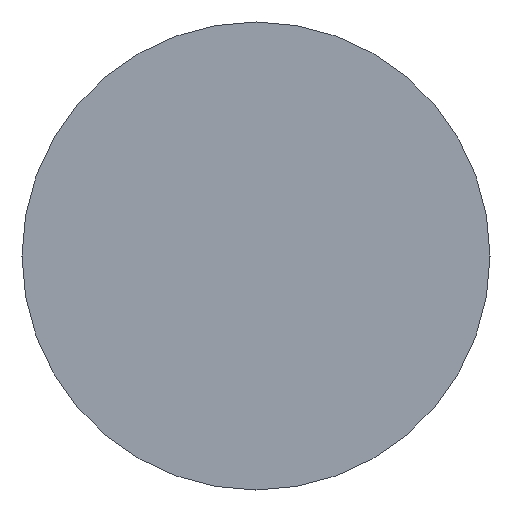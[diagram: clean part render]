
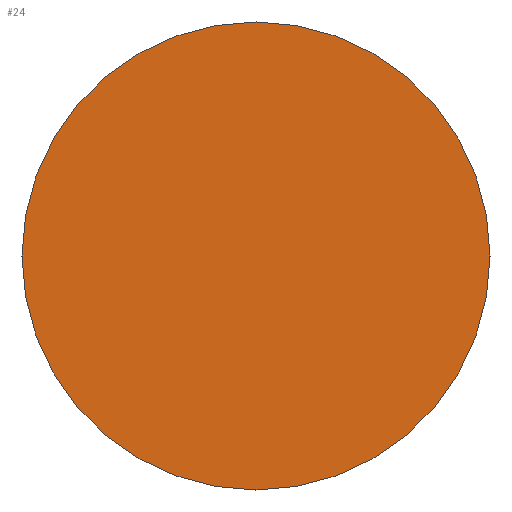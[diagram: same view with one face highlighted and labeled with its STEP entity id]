
A CAD part, left-side view. The second image highlights one B-rep face of the part: STEP entity #24.
In plain terms, the highlighted planar face has unit normal (-1, 0, 0).
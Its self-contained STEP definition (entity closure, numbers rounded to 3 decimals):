
#7 = DIRECTION ( 'NONE',  ( -1., 0., 0. ) ) ;
#24 = ADVANCED_FACE ( 'NONE', ( #116 ), #80, .F. ) ;
#73 = VERTEX_POINT ( 'NONE', #361 ) ;
#76 = DIRECTION ( 'NONE',  ( 0., 0., -1. ) ) ;
#80 = PLANE ( 'NONE',  #135 ) ;
#107 = AXIS2_PLACEMENT_3D ( 'NONE', #365, #253, #374 ) ;
#110 = CARTESIAN_POINT ( 'NONE',  ( -55., 3., 0. ) ) ;
#116 = FACE_OUTER_BOUND ( 'NONE', #157, .T. ) ;
#135 = AXIS2_PLACEMENT_3D ( 'NONE', #110, #312, #76 ) ;
#157 = EDGE_LOOP ( 'NONE', ( #161, #187 ) ) ;
#161 = ORIENTED_EDGE ( 'NONE', *, *, #387, .T. ) ;
#184 = DIRECTION ( 'NONE',  ( 0., 0., 1. ) ) ;
#187 = ORIENTED_EDGE ( 'NONE', *, *, #305, .T. ) ;
#209 = CIRCLE ( 'NONE', #313, 3. ) ;
#217 = CIRCLE ( 'NONE', #107, 3. ) ;
#223 = CARTESIAN_POINT ( 'NONE',  ( -55., 0., -3. ) ) ;
#253 = DIRECTION ( 'NONE',  ( -1., 0., 0. ) ) ;
#305 = EDGE_CURVE ( 'NONE', #318, #73, #209, .T. ) ;
#312 = DIRECTION ( 'NONE',  ( 1., 0., 0. ) ) ;
#313 = AXIS2_PLACEMENT_3D ( 'NONE', #366, #7, #184 ) ;
#318 = VERTEX_POINT ( 'NONE', #223 ) ;
#361 = CARTESIAN_POINT ( 'NONE',  ( -55., 0., 3. ) ) ;
#365 = CARTESIAN_POINT ( 'NONE',  ( -55., 0., 0. ) ) ;
#366 = CARTESIAN_POINT ( 'NONE',  ( -55., 0., 0. ) ) ;
#374 = DIRECTION ( 'NONE',  ( 0., 0., 1. ) ) ;
#387 = EDGE_CURVE ( 'NONE', #73, #318, #217, .T. ) ;
